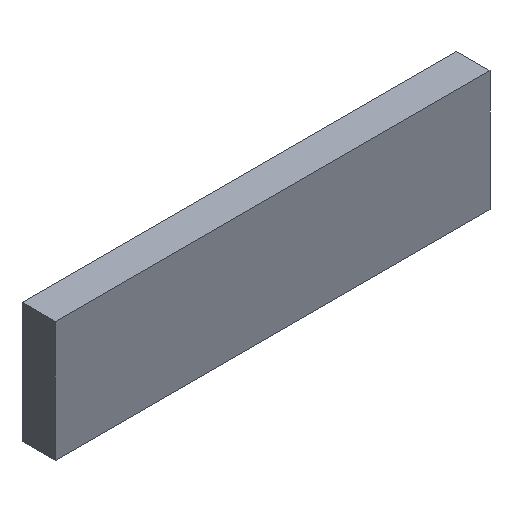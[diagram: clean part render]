
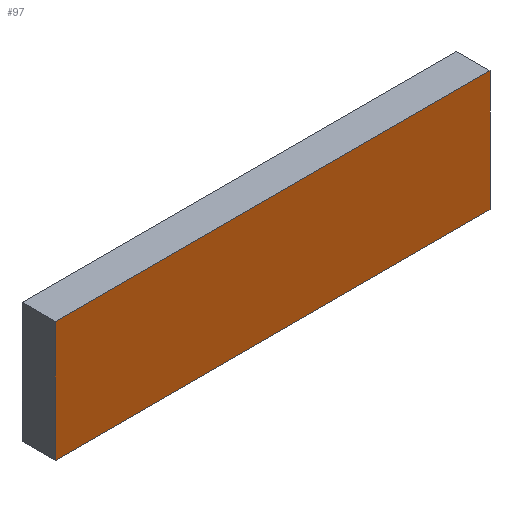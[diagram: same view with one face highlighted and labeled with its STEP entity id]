
A CAD part, isometric view. The second image highlights one B-rep face of the part: STEP entity #97.
In plain terms, the highlighted planar face has unit normal (0, -1, 0).
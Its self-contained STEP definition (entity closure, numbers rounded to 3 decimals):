
#21 = EDGE_CURVE('',#22,#24,#26,.T.);
#22 = VERTEX_POINT('',#23);
#23 = CARTESIAN_POINT('',(-32.5,-2.5,-189.));
#24 = VERTEX_POINT('',#25);
#25 = CARTESIAN_POINT('',(-32.5,-2.5,-171.));
#26 = LINE('',#27,#28);
#27 = CARTESIAN_POINT('',(-32.5,-2.5,-189.));
#28 = VECTOR('',#29,1.);
#29 = DIRECTION('',(0.,0.,1.));
#61 = EDGE_CURVE('',#62,#64,#66,.T.);
#62 = VERTEX_POINT('',#63);
#63 = CARTESIAN_POINT('',(32.5,-2.5,-189.));
#64 = VERTEX_POINT('',#65);
#65 = CARTESIAN_POINT('',(32.5,-2.5,-171.));
#66 = LINE('',#67,#68);
#67 = CARTESIAN_POINT('',(32.5,-2.5,-189.));
#68 = VECTOR('',#69,1.);
#69 = DIRECTION('',(0.,0.,1.));
#97 = ADVANCED_FACE('',(#98),#114,.F.);
#98 = FACE_BOUND('',#99,.F.);
#99 = EDGE_LOOP('',(#100,#106,#107,#113));
#100 = ORIENTED_EDGE('',*,*,#101,.F.);
#101 = EDGE_CURVE('',#22,#62,#102,.T.);
#102 = LINE('',#103,#104);
#103 = CARTESIAN_POINT('',(-32.5,-2.5,-189.));
#104 = VECTOR('',#105,1.);
#105 = DIRECTION('',(1.,0.,0.));
#106 = ORIENTED_EDGE('',*,*,#21,.T.);
#107 = ORIENTED_EDGE('',*,*,#108,.T.);
#108 = EDGE_CURVE('',#24,#64,#109,.T.);
#109 = LINE('',#110,#111);
#110 = CARTESIAN_POINT('',(-32.5,-2.5,-171.));
#111 = VECTOR('',#112,1.);
#112 = DIRECTION('',(1.,0.,0.));
#113 = ORIENTED_EDGE('',*,*,#61,.F.);
#114 = PLANE('',#115);
#115 = AXIS2_PLACEMENT_3D('',#116,#117,#118);
#116 = CARTESIAN_POINT('',(-32.5,-2.5,-189.));
#117 = DIRECTION('',(0.,1.,0.));
#118 = DIRECTION('',(0.,0.,1.));
